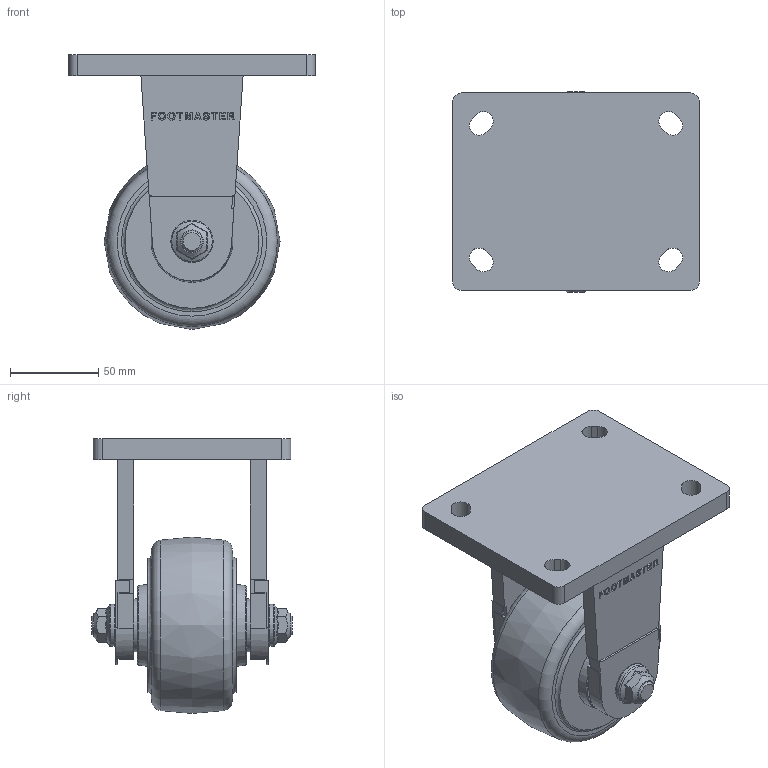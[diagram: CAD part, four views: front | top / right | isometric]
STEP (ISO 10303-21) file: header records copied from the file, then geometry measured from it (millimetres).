
FILE_DESCRIPTION((''),'2;1');
FILE_NAME('C:\Documents and Settings\Administrator\바탕 화면\3D STEP\GXTD-SERIES\GXTA-100\GXTA-100-RF.stp','2010-12-27T14:40:05',('Administrator'),(''),'Autodesk Inventor 2009','Autodesk Inventor 2009','');
FILE_SCHEMA(('AUTOMOTIVE_DESIGN { 1 0 10303 214 1 1 1 1 }'));
Length unit declared in the file: millimetre
Products named in the file (1): GXTA-100-RF
Bounding box: 140 x 114 x 156 mm (x, y, z)
Volume: 642068.6 mm3; surface area: 110371.9 mm2
Topology: 1 solids, 2 shells, 771 faces, 2101 edges, 1386 vertices
Faces by surface type: plane 672, cylinder 48, bspline 25, torus 14, cone 12
Full cylindrical faces by diameter (mm): 12 x4, 12.2 x2, 15 x4, 15.2 x2, 18 x1, 21.667 x4, 24 x2, 28.333 x4, 30 x2, 31 x1, 35 x4
Entity records: 25166 total; most frequent: CARTESIAN_POINT 6064, ORIENTED_EDGE 4032, DIRECTION 3600, EDGE_CURVE 2016, VECTOR 1814, LINE 1814, VERTEX_POINT 1370, EDGE_LOOP 908
